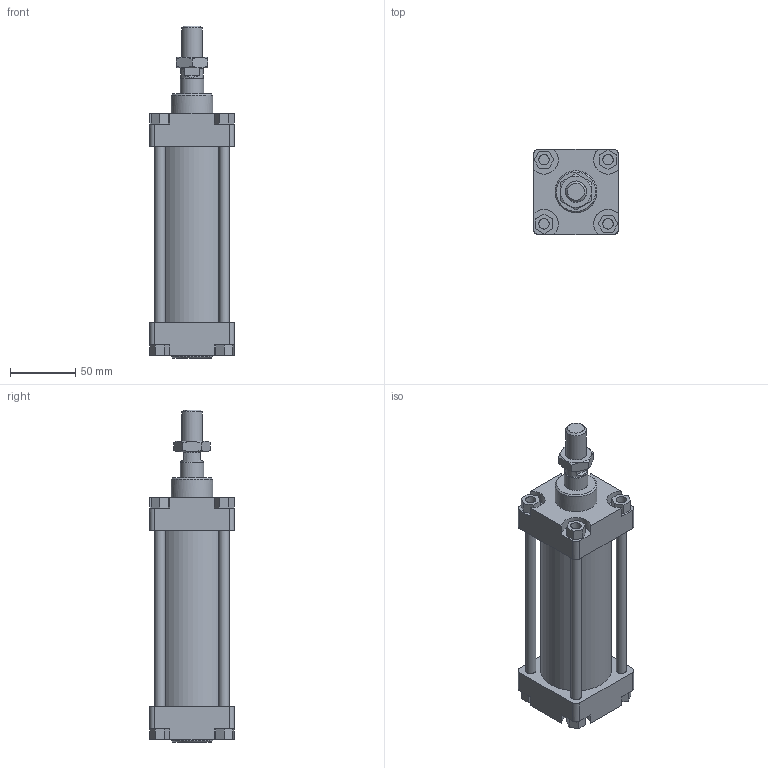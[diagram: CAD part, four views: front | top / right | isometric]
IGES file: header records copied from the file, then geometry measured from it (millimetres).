
Global section: file name: 130#_050_0075_01A; native system: Autodesk Inventor 2014; preprocessor: unknown; author: A. Manieri; date: 20161123.145420; units: millimetre
Bounding box: 65 x 65 x 254 mm (x, y, z)
Volume: 415095.3 mm3; surface area: 125835.4 mm2
Topology: 9 solids, 9 shells, 163 faces, 401 edges, 268 vertices
Faces by surface type: bspline 163
